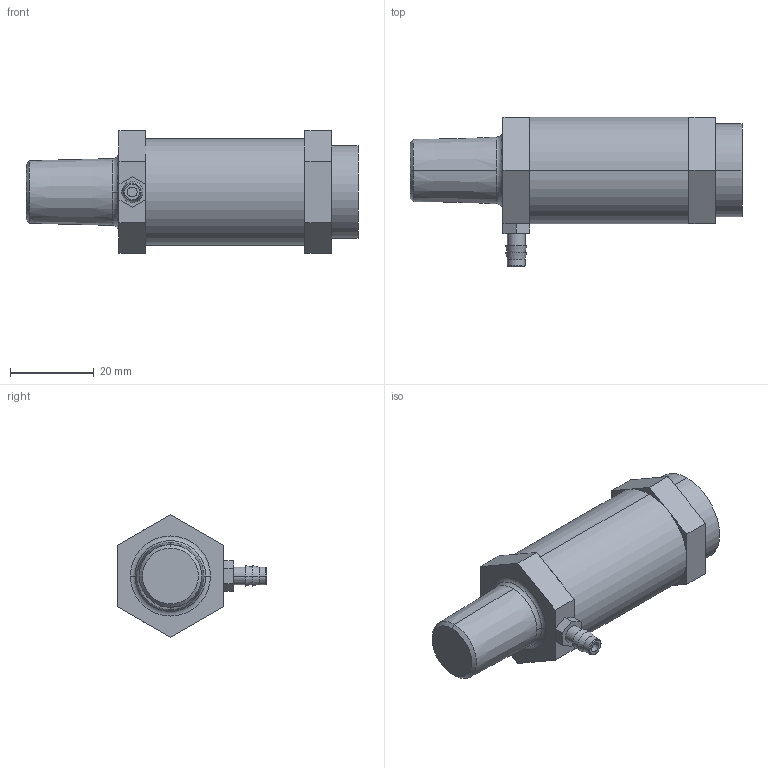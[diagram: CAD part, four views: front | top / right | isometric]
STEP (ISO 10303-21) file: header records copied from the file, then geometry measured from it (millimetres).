
FILE_DESCRIPTION((''),'2;1');
FILE_NAME('UC2_ASM','2017-08-24T',('jennifer.elliott'),('CenterLine (Windsor) Ltd - Automation Components Division'),'PRO/ENGINEER BY PARAMETRIC TECHNOLOGY CORPORATION, 2015030','PRO/ENGINEER BY PARAMETRIC TECHNOLOGY CORPORATION, 2015030','');
FILE_SCHEMA(('AUTOMOTIVE_DESIGN { 1 0 10303 214 1 1 1 1 }'));
Length unit declared in the file: inch
Products named in the file (6): PRT0049; PRT0050; PRT0051; PRT0052; PRT0053; UC2_ASM
Assembly tree (5 placements, depth 2):
  UC2_ASM
    PRT0049
    PRT0050
    PRT0051
    PRT0052
    PRT0053
Bounding box: 79.38 x 35.71 x 29.33 mm (x, y, z)
Volume: 33218.6 mm3; surface area: 9938.7 mm2
Topology: 5 solids, 5 shells, 58 faces, 123 edges, 79 vertices
Faces by surface type: plane 32, cylinder 10, torus 8, cone 8
Entity records: 1948 total; most frequent: DIRECTION 312, CARTESIAN_POINT 287, ORIENTED_EDGE 246, EDGE_CURVE 123, AXIS2_PLACEMENT_3D 120, VERTEX_POINT 79, VECTOR 72, LINE 72
